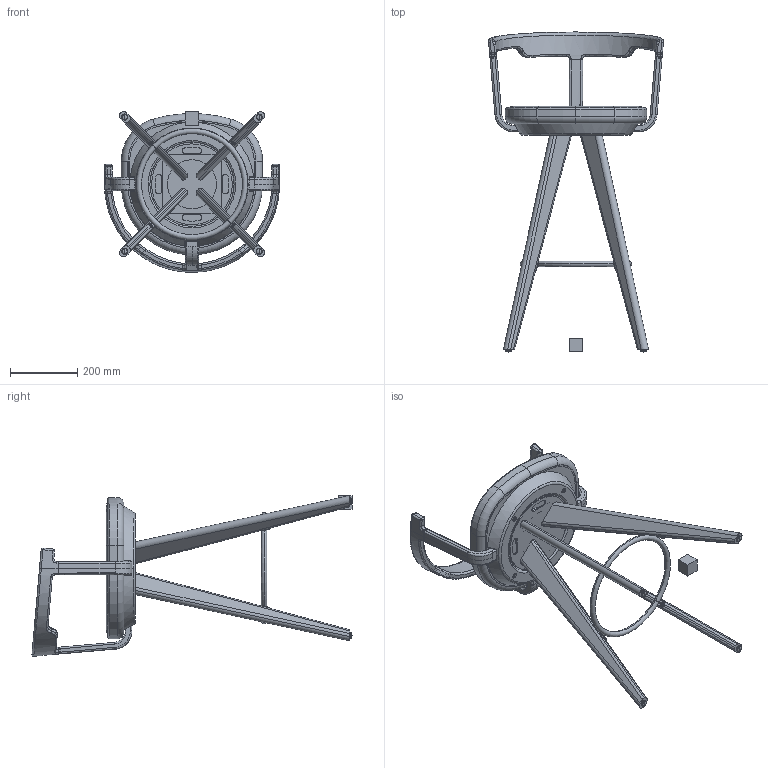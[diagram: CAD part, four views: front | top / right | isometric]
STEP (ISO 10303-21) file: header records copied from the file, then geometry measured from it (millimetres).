
FILE_DESCRIPTION (( 'STEP AP214' ), '1' );
FILE_NAME ('僗僀儀儖HiCG.STEP', '2026-03-25T08:34:39', ( '' ), ( '' ), 'SwSTEP 2.0', 'SolidWorks 2025', '' );
FILE_SCHEMA (( 'AUTOMOTIVE_DESIGN' ));
Length unit declared in the file: millimetre
Products named in the file (1): スイベルHiCG
Bounding box: 520.05 x 951.21 x 477.39 mm (x, y, z)
Volume: 14783275.1 mm3; surface area: 1703750.6 mm2
Topology: 29 solids, 29 shells, 818 faces, 2001 edges, 1266 vertices
Faces by surface type: cylinder 317, plane 237, bspline 104, cone 82, torus 56, sphere 22
Entity records: 30435 total; most frequent: CARTESIAN_POINT 11471, ORIENTED_EDGE 3970, DIRECTION 3763, EDGE_CURVE 1985, AXIS2_PLACEMENT_3D 1489, VERTEX_POINT 1264, EDGE_LOOP 925, FACE_OUTER_BOUND 818
